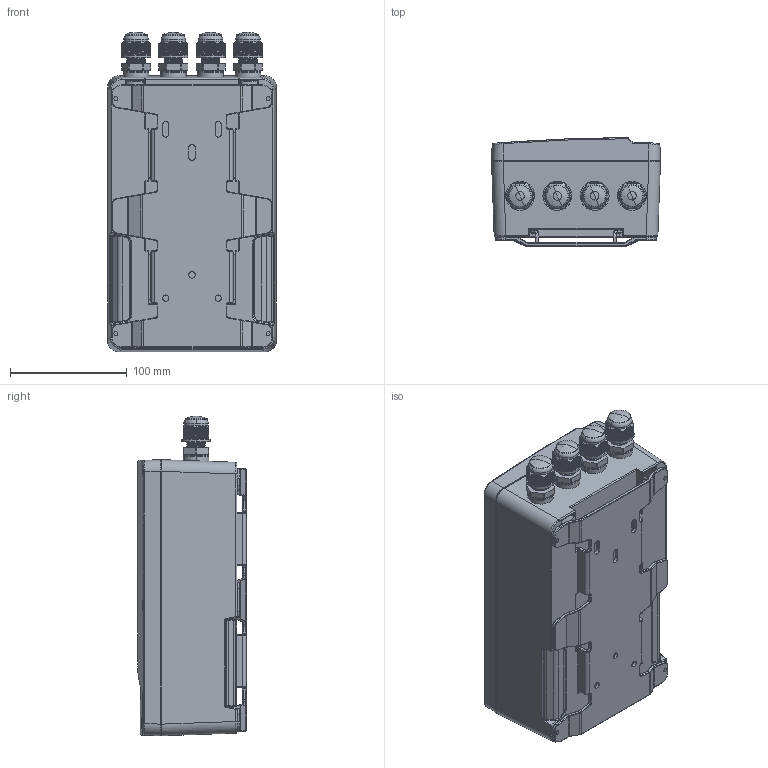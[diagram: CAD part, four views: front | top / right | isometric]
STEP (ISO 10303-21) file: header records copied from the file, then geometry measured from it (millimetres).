
FILE_DESCRIPTION (( 'STEP AP203' ), '1' );
FILE_NAME ('3D_TIP5.STEP', '2022-09-30T09:53:55', ( '' ), ( '' ), 'SwSTEP 2.0', 'SolidWorks 2015', '' );
FILE_SCHEMA (( 'CONFIG_CONTROL_DESIGN' ));
Products named in the file (1): 3D_TIP5
Bounding box: 144.96 x 92.99 x 274.26 mm (x, y, z)
Volume: 631334.6 mm3; surface area: 417961.5 mm2
Topology: 22 solids, 22 shells, 3738 faces, 9472 edges, 5788 vertices
Faces by surface type: plane 1507, cylinder 986, bspline 623, torus 357, cone 201, sphere 64
Entity records: 153787 total; most frequent: CARTESIAN_POINT 70660, ORIENTED_EDGE 18770, DIRECTION 15700, EDGE_CURVE 9385, AXIS2_PLACEMENT_3D 5841, VERTEX_POINT 5776, LINE 4018, VECTOR 4018
